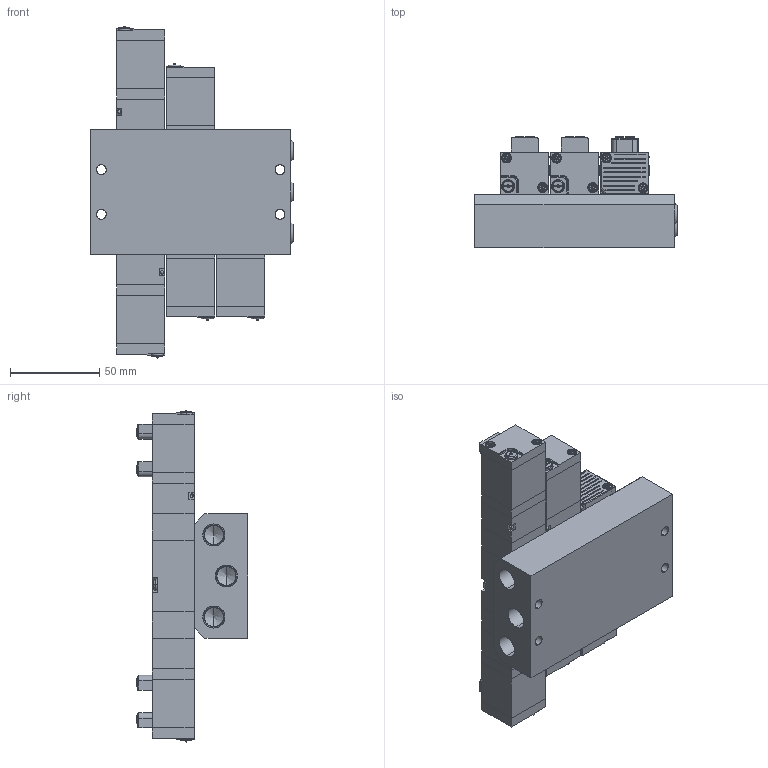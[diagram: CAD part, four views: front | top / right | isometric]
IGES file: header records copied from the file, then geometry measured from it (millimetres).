
Start section: SolidWorks IGES file using analytic representation for surfaces
Global section: file name: D:\Custom\3D繪製\PC\PC06\MFB#-PC06-02-L.IGS,1; native system: 5HSolidWorks 2014; preprocessor: SolidWorks 2014; author: Chieh_Lu; date: 150821.142329; units: millimetre
Bounding box: 113.51 x 62.5 x 185.95 mm (x, y, z)
Surface area: 114192.5 mm2 (no closed solid volume)
Topology: 0 solids, 0 shells, 1558 faces, 14797 edges, 14688 vertices
Faces by surface type: bspline 981, revolution 577
